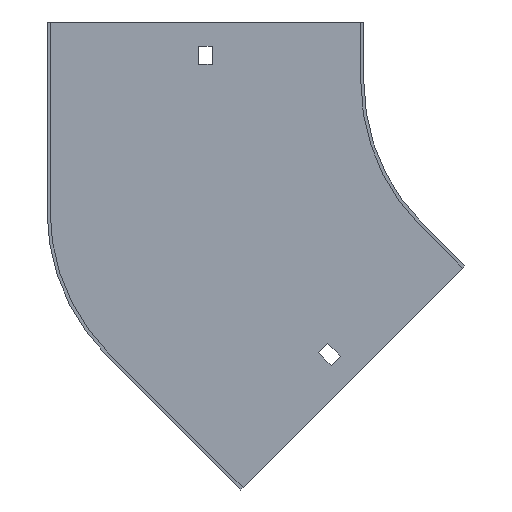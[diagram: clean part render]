
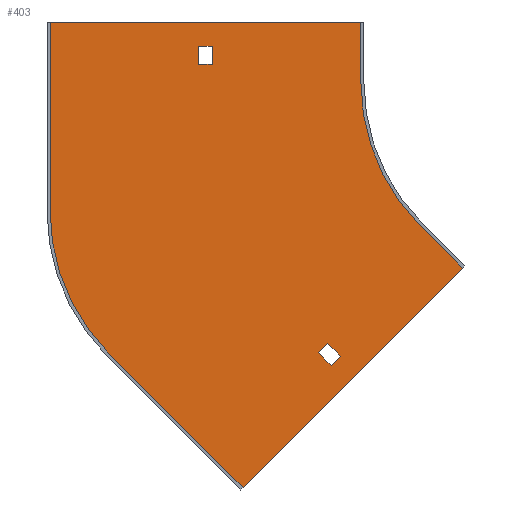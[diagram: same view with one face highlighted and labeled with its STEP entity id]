
A CAD part, front view. The second image highlights one B-rep face of the part: STEP entity #403.
In plain terms, the highlighted planar face has unit normal (0, -1, 0).
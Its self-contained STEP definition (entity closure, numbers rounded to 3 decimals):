
#3 = ORIENTED_EDGE ( 'NONE', *, *, #524, .F. ) ;
#12 = VECTOR ( 'NONE', #754, 1000. ) ;
#16 = EDGE_CURVE ( 'NONE', #29, #739, #578, .T. ) ;
#17 = VERTEX_POINT ( 'NONE', #516 ) ;
#21 = LINE ( 'NONE', #823, #655 ) ;
#26 = CIRCLE ( 'NONE', #431, 100. ) ;
#28 = VECTOR ( 'NONE', #741, 1000. ) ;
#29 = VERTEX_POINT ( 'NONE', #313 ) ;
#48 = CARTESIAN_POINT ( 'NONE',  ( -154., -1.5, -63.789 ) ) ;
#49 = CARTESIAN_POINT ( 'NONE',  ( -158.392, -1.5, -200.818 ) ) ;
#50 = ORIENTED_EDGE ( 'NONE', *, *, #296, .F. ) ;
#72 = CARTESIAN_POINT ( 'NONE',  ( -70.711, -1.5, -70.711 ) ) ;
#73 = CARTESIAN_POINT ( 'NONE',  ( -116.496, -1.5, -129.224 ) ) ;
#80 = EDGE_CURVE ( 'NONE', #739, #444, #782, .T. ) ;
#105 = EDGE_CURVE ( 'NONE', #541, #539, #26, .T. ) ;
#108 = EDGE_CURVE ( 'NONE', #253, #788, #371, .T. ) ;
#112 = DIRECTION ( 'NONE',  ( 0., 0., -1. ) ) ;
#114 = CARTESIAN_POINT ( 'NONE',  ( 0., -1.5, 18. ) ) ;
#135 = LINE ( 'NONE', #412, #163 ) ;
#136 = VECTOR ( 'NONE', #773, 1000. ) ;
#141 = DIRECTION ( 'NONE',  ( -0.707, 0., -0.707 ) ) ;
#149 = VERTEX_POINT ( 'NONE', #178 ) ;
#150 = PLANE ( 'NONE',  #277 ) ;
#163 = VECTOR ( 'NONE', #404, 1000. ) ;
#170 = EDGE_CURVE ( 'NONE', #399, #762, #778, .T. ) ;
#174 = EDGE_CURVE ( 'NONE', #694, #541, #718, .T. ) ;
#176 = ORIENTED_EDGE ( 'NONE', *, *, #80, .T. ) ;
#178 = CARTESIAN_POINT ( 'NONE',  ( -254., -1.5, 30. ) ) ;
#189 = CARTESIAN_POINT ( 'NONE',  ( -127.456, -1.5, -127.456 ) ) ;
#204 = VERTEX_POINT ( 'NONE', #526 ) ;
#212 = LINE ( 'NONE', #72, #28 ) ;
#221 = VECTOR ( 'NONE', #247, 1000. ) ;
#222 = LINE ( 'NONE', #416, #12 ) ;
#237 = LINE ( 'NONE', #766, #360 ) ;
#239 = DIRECTION ( 'NONE',  ( 0., 1., 0. ) ) ;
#246 = EDGE_CURVE ( 'NONE', #17, #503, #417, .T. ) ;
#247 = DIRECTION ( 'NONE',  ( 0., 0., 1. ) ) ;
#252 = DIRECTION ( 'NONE',  ( 1., 0., 0. ) ) ;
#253 = VERTEX_POINT ( 'NONE', #730 ) ;
#258 = ORIENTED_EDGE ( 'NONE', *, *, #747, .F. ) ;
#266 = CARTESIAN_POINT ( 'NONE',  ( 0., -1.5, 0. ) ) ;
#277 = AXIS2_PLACEMENT_3D ( 'NONE', #289, #281, #542 ) ;
#281 = DIRECTION ( 'NONE',  ( 0., -1., 0. ) ) ;
#289 = CARTESIAN_POINT ( 'NONE',  ( 0., -1.5, 0. ) ) ;
#292 = CARTESIAN_POINT ( 'NONE',  ( -180.25, -1.5, 9. ) ) ;
#293 = EDGE_LOOP ( 'NONE', ( #327, #455, #299, #586 ) ) ;
#296 = EDGE_CURVE ( 'NONE', #503, #389, #212, .T. ) ;
#299 = ORIENTED_EDGE ( 'NONE', *, *, #170, .F. ) ;
#301 = VECTOR ( 'NONE', #456, 1000. ) ;
#311 = EDGE_CURVE ( 'NONE', #788, #399, #398, .T. ) ;
#313 = CARTESIAN_POINT ( 'NONE',  ( -180.25, -1.5, 18. ) ) ;
#314 = EDGE_CURVE ( 'NONE', #149, #204, #135, .T. ) ;
#322 = VECTOR ( 'NONE', #831, 1000. ) ;
#323 = VECTOR ( 'NONE', #692, 1000. ) ;
#327 = ORIENTED_EDGE ( 'NONE', *, *, #108, .F. ) ;
#334 = DIRECTION ( 'NONE',  ( 0., -1., 0. ) ) ;
#336 = VECTOR ( 'NONE', #252, 1000. ) ;
#345 = EDGE_CURVE ( 'NONE', #762, #253, #222, .T. ) ;
#346 = CARTESIAN_POINT ( 'NONE',  ( -49.497, -1.5, -91.924 ) ) ;
#360 = VECTOR ( 'NONE', #439, 1000. ) ;
#361 = EDGE_LOOP ( 'NONE', ( #640, #258, #644, #770, #3, #50, #752, #824 ) ) ;
#362 = CARTESIAN_POINT ( 'NONE',  ( -70.711, -1.5, -70.711 ) ) ;
#371 = LINE ( 'NONE', #379, #136 ) ;
#378 = ORIENTED_EDGE ( 'NONE', *, *, #658, .T. ) ;
#379 = CARTESIAN_POINT ( 'NONE',  ( -122.86, -1.5, -122.86 ) ) ;
#383 = CARTESIAN_POINT ( 'NONE',  ( -173.75, -1.5, 0. ) ) ;
#389 = VERTEX_POINT ( 'NONE', #346 ) ;
#398 = LINE ( 'NONE', #735, #592 ) ;
#399 = VERTEX_POINT ( 'NONE', #620 ) ;
#403 = ADVANCED_FACE ( 'NONE', ( #478, #548, #744 ), #150, .T. ) ;
#404 = DIRECTION ( 'NONE',  ( 1., 0., 0. ) ) ;
#408 = ORIENTED_EDGE ( 'NONE', *, *, #711, .T. ) ;
#412 = CARTESIAN_POINT ( 'NONE',  ( -255.5, -1.5, 30. ) ) ;
#415 = VERTEX_POINT ( 'NONE', #292 ) ;
#416 = CARTESIAN_POINT ( 'NONE',  ( 12.728, -1.5, -12.728 ) ) ;
#417 = CIRCLE ( 'NONE', #447, 100. ) ;
#431 = AXIS2_PLACEMENT_3D ( 'NONE', #48, #239, #112 ) ;
#439 = DIRECTION ( 'NONE',  ( -0.707, 0., -0.707 ) ) ;
#444 = VERTEX_POINT ( 'NONE', #551 ) ;
#445 = DIRECTION ( 'NONE',  ( -0.707, 0., 0.707 ) ) ;
#447 = AXIS2_PLACEMENT_3D ( 'NONE', #266, #334, #593 ) ;
#448 = LINE ( 'NONE', #841, #759 ) ;
#453 = LINE ( 'NONE', #784, #221 ) ;
#455 = ORIENTED_EDGE ( 'NONE', *, *, #345, .F. ) ;
#456 = DIRECTION ( 'NONE',  ( 0.707, 0., -0.707 ) ) ;
#478 = FACE_BOUND ( 'NONE', #293, .T. ) ;
#495 = LINE ( 'NONE', #559, #323 ) ;
#501 = CARTESIAN_POINT ( 'NONE',  ( -173.75, -1.5, 18. ) ) ;
#503 = VERTEX_POINT ( 'NONE', #362 ) ;
#515 = CARTESIAN_POINT ( 'NONE',  ( -158.392, -1.5, -200.818 ) ) ;
#516 = CARTESIAN_POINT ( 'NONE',  ( -100., -1.5, 0. ) ) ;
#524 = EDGE_CURVE ( 'NONE', #389, #694, #237, .T. ) ;
#526 = CARTESIAN_POINT ( 'NONE',  ( -100., -1.5, 30. ) ) ;
#539 = VERTEX_POINT ( 'NONE', #724 ) ;
#540 = DIRECTION ( 'NONE',  ( -1., 0., 0. ) ) ;
#541 = VERTEX_POINT ( 'NONE', #650 ) ;
#542 = DIRECTION ( 'NONE',  ( 0., 0., -1. ) ) ;
#548 = FACE_OUTER_BOUND ( 'NONE', #361, .T. ) ;
#551 = CARTESIAN_POINT ( 'NONE',  ( -173.75, -1.5, 9. ) ) ;
#559 = CARTESIAN_POINT ( 'NONE',  ( -100., -1.5, 30. ) ) ;
#578 = LINE ( 'NONE', #114, #336 ) ;
#580 = ORIENTED_EDGE ( 'NONE', *, *, #16, .T. ) ;
#586 = ORIENTED_EDGE ( 'NONE', *, *, #311, .F. ) ;
#592 = VECTOR ( 'NONE', #141, 1000. ) ;
#593 = DIRECTION ( 'NONE',  ( 0., 0., -1. ) ) ;
#614 = EDGE_CURVE ( 'NONE', #204, #17, #495, .T. ) ;
#620 = CARTESIAN_POINT ( 'NONE',  ( -121.092, -1.5, -133.82 ) ) ;
#629 = CARTESIAN_POINT ( 'NONE',  ( -114.728, -1.5, -140.184 ) ) ;
#631 = VECTOR ( 'NONE', #445, 1000. ) ;
#636 = EDGE_LOOP ( 'NONE', ( #580, #176, #378, #408 ) ) ;
#640 = ORIENTED_EDGE ( 'NONE', *, *, #314, .F. ) ;
#644 = ORIENTED_EDGE ( 'NONE', *, *, #105, .F. ) ;
#650 = CARTESIAN_POINT ( 'NONE',  ( -224.711, -1.5, -134.5 ) ) ;
#655 = VECTOR ( 'NONE', #540, 1000. ) ;
#658 = EDGE_CURVE ( 'NONE', #444, #415, #21, .T. ) ;
#692 = DIRECTION ( 'NONE',  ( 0., 0., -1. ) ) ;
#694 = VERTEX_POINT ( 'NONE', #49 ) ;
#709 = DIRECTION ( 'NONE',  ( 0., 0., 1. ) ) ;
#711 = EDGE_CURVE ( 'NONE', #415, #29, #453, .T. ) ;
#718 = LINE ( 'NONE', #515, #631 ) ;
#724 = CARTESIAN_POINT ( 'NONE',  ( -254., -1.5, -63.789 ) ) ;
#730 = CARTESIAN_POINT ( 'NONE',  ( -110.132, -1.5, -135.588 ) ) ;
#735 = CARTESIAN_POINT ( 'NONE',  ( 6.364, -1.5, -6.364 ) ) ;
#739 = VERTEX_POINT ( 'NONE', #501 ) ;
#741 = DIRECTION ( 'NONE',  ( 0.707, 0., -0.707 ) ) ;
#744 = FACE_BOUND ( 'NONE', #636, .T. ) ;
#747 = EDGE_CURVE ( 'NONE', #539, #149, #448, .T. ) ;
#752 = ORIENTED_EDGE ( 'NONE', *, *, #246, .F. ) ;
#754 = DIRECTION ( 'NONE',  ( 0.707, 0., 0.707 ) ) ;
#759 = VECTOR ( 'NONE', #709, 1000. ) ;
#762 = VERTEX_POINT ( 'NONE', #629 ) ;
#766 = CARTESIAN_POINT ( 'NONE',  ( -48.437, -1.5, -90.863 ) ) ;
#770 = ORIENTED_EDGE ( 'NONE', *, *, #174, .F. ) ;
#773 = DIRECTION ( 'NONE',  ( -0.707, 0., 0.707 ) ) ;
#778 = LINE ( 'NONE', #189, #301 ) ;
#782 = LINE ( 'NONE', #383, #322 ) ;
#784 = CARTESIAN_POINT ( 'NONE',  ( -180.25, -1.5, 0. ) ) ;
#788 = VERTEX_POINT ( 'NONE', #73 ) ;
#823 = CARTESIAN_POINT ( 'NONE',  ( 0., -1.5, 9. ) ) ;
#824 = ORIENTED_EDGE ( 'NONE', *, *, #614, .F. ) ;
#831 = DIRECTION ( 'NONE',  ( 0., 0., -1. ) ) ;
#841 = CARTESIAN_POINT ( 'NONE',  ( -254., -1.5, -63.789 ) ) ;
